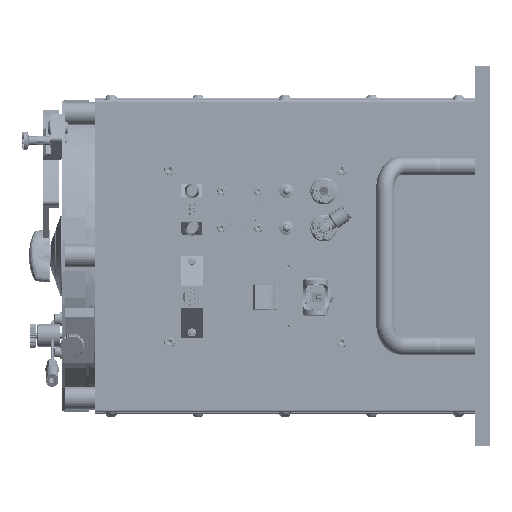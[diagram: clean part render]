
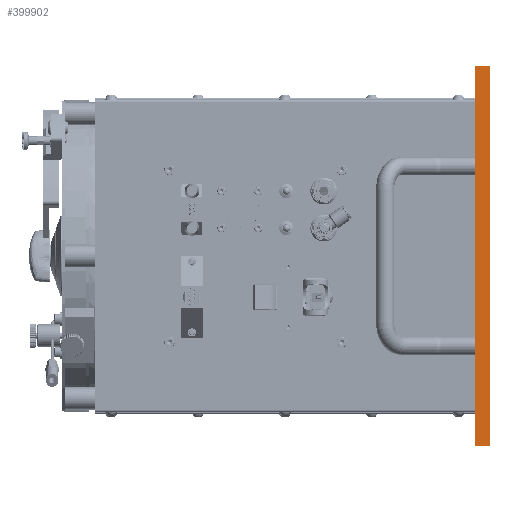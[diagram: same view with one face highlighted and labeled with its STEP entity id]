
A CAD part, left-side view. The second image highlights one B-rep face of the part: STEP entity #399902.
In plain terms, the highlighted planar face has unit normal (-1, 0, 0) as drawn and (1, 0, 0) by its records, which use the part's own axes.
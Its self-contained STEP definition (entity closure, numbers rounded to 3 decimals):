
#1707 = CARTESIAN_POINT ( 'NONE',  ( 300., 0., -127. ) ) ;
#21788 = CARTESIAN_POINT ( 'NONE',  ( 300., 10., -127. ) ) ;
#29556 = CARTESIAN_POINT ( 'NONE',  ( 300., 0., 127. ) ) ;
#57901 = DIRECTION ( 'NONE',  ( 0., 0., 1. ) ) ;
#79522 = EDGE_CURVE ( 'NONE', #117030, #85992, #311217, .T. ) ;
#82001 = CARTESIAN_POINT ( 'NONE',  ( 300., 0., 127. ) ) ;
#84817 = VERTEX_POINT ( 'NONE', #143097 ) ;
#85992 = VERTEX_POINT ( 'NONE', #1707 ) ;
#117030 = VERTEX_POINT ( 'NONE', #29556 ) ;
#127363 = EDGE_LOOP ( 'NONE', ( #224186, #319828, #499005, #495365 ) ) ;
#128803 = CARTESIAN_POINT ( 'NONE',  ( 300., 10., 127. ) ) ;
#139653 = CARTESIAN_POINT ( 'NONE',  ( 300., 10., 127. ) ) ;
#143097 = CARTESIAN_POINT ( 'NONE',  ( 300., 10., -127. ) ) ;
#148452 = VECTOR ( 'NONE', #450950, 1000. ) ;
#172055 = LINE ( 'NONE', #406192, #148452 ) ;
#186851 = EDGE_CURVE ( 'NONE', #495029, #84817, #172055, .T. ) ;
#188046 = VECTOR ( 'NONE', #276994, 1000. ) ;
#198072 = VECTOR ( 'NONE', #506647, 1000. ) ;
#224186 = ORIENTED_EDGE ( 'NONE', *, *, #79522, .T. ) ;
#264695 = LINE ( 'NONE', #269868, #198072 ) ;
#269231 = DIRECTION ( 'NONE',  ( 0., -1., 0. ) ) ;
#269868 = CARTESIAN_POINT ( 'NONE',  ( 300., 10., 127. ) ) ;
#276994 = DIRECTION ( 'NONE',  ( 0., 0., -1. ) ) ;
#300144 = DIRECTION ( 'NONE',  ( -1., 0., 0. ) ) ;
#311217 = LINE ( 'NONE', #82001, #188046 ) ;
#319828 = ORIENTED_EDGE ( 'NONE', *, *, #401387, .F. ) ;
#382503 = LINE ( 'NONE', #21788, #402119 ) ;
#393478 = AXIS2_PLACEMENT_3D ( 'NONE', #139653, #300144, #57901 ) ;
#399902 = ADVANCED_FACE ( 'NONE', ( #418585 ), #410796, .F. ) ;
#401387 = EDGE_CURVE ( 'NONE', #84817, #85992, #382503, .T. ) ;
#402119 = VECTOR ( 'NONE', #269231, 1000. ) ;
#406192 = CARTESIAN_POINT ( 'NONE',  ( 300., 10., 127. ) ) ;
#410796 = PLANE ( 'NONE',  #393478 ) ;
#418585 = FACE_OUTER_BOUND ( 'NONE', #127363, .T. ) ;
#440840 = EDGE_CURVE ( 'NONE', #495029, #117030, #264695, .T. ) ;
#450950 = DIRECTION ( 'NONE',  ( 0., 0., -1. ) ) ;
#495029 = VERTEX_POINT ( 'NONE', #128803 ) ;
#495365 = ORIENTED_EDGE ( 'NONE', *, *, #440840, .T. ) ;
#499005 = ORIENTED_EDGE ( 'NONE', *, *, #186851, .F. ) ;
#506647 = DIRECTION ( 'NONE',  ( 0., -1., 0. ) ) ;
